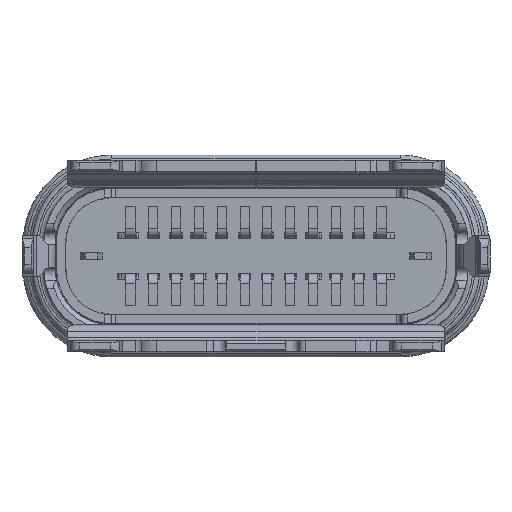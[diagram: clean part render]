
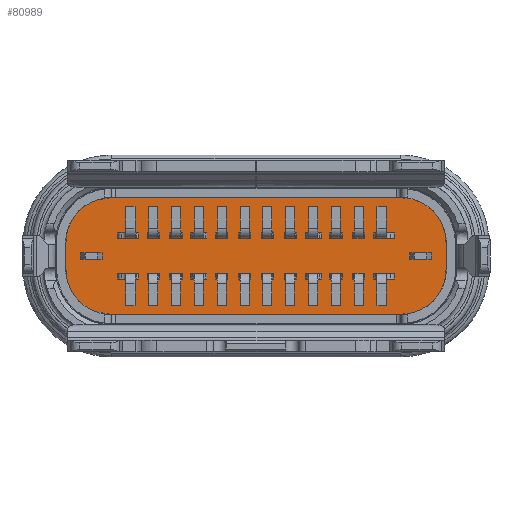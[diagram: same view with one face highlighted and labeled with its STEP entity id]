
A CAD part, left-side view. The second image highlights one B-rep face of the part: STEP entity #80989.
In plain terms, the highlighted free-form (B-spline) face has degree [1, 1] with [2, 2] control points.
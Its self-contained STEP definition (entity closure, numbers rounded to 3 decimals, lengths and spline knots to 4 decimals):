
#1302 = ORIENTED_EDGE ( 'NONE', *, *, #132856, .T. ) ;
#2977 = ORIENTED_EDGE ( 'NONE', *, *, #160617, .T. ) ;
#3748 = VERTEX_POINT ( 'NONE', #141327 ) ;
#5496 = CARTESIAN_POINT ( 'NONE',  ( 21.7417, 3.7678, -2.428 ) ) ;
#10269 = CARTESIAN_POINT ( 'NONE',  ( 21.7417, 3.7678, -4.032 ) ) ;
#14080 = CARTESIAN_POINT ( 'NONE',  ( 21.7417, 4.138, -4.4022 ) ) ;
#24004 = VERTEX_POINT ( 'NONE', #171855 ) ;
#25410 = EDGE_CURVE ( 'NONE', #32365, #162111, #28358, .T. ) ;
#27012 = VERTEX_POINT ( 'NONE', #147892 ) ;
#27454 = ORIENTED_EDGE ( 'NONE', *, *, #126167, .T. ) ;
#28358 = B_SPLINE_CURVE_WITH_KNOTS ( 'NONE', 3,
 ( #68723, #187028, #94904, #154053, #54220, #138548 ),
 .UNSPECIFIED., .F., .F.,
 ( 4, 2, 4 ),
 ( 0., 0.7854, 1.5708 ),
 .UNSPECIFIED. ) ;
#30628 = CARTESIAN_POINT ( 'NONE',  ( 21.7417, 12., -3.51 ) ) ;
#32030 = CARTESIAN_POINT ( 'NONE',  ( 21.7417, 11., -4.51 ) ) ;
#32365 = VERTEX_POINT ( 'NONE', #122808 ) ;
#32948 = CARTESIAN_POINT ( 'NONE',  ( 21.7417, 12., -2.95 ) ) ;
#33009 = EDGE_CURVE ( 'NONE', #186381, #27012, #81251, .T. ) ;
#34487 = CARTESIAN_POINT ( 'NONE',  ( 21.7417, 3.66, -3.51 ) ) ;
#43088 = CARTESIAN_POINT ( 'NONE',  ( 21.7417, 4.3982, -4.5102 ) ) ;
#44190 = CARTESIAN_POINT ( 'NONE',  ( 21.7417, 3.4932, -1.8988 ) ) ;
#51844 = B_SPLINE_CURVE_WITH_KNOTS ( 'NONE', 1,
 ( #83486, #159047 ),
 .UNSPECIFIED., .F., .F.,
 ( 2, 2 ),
 ( 0., 1. ),
 .UNSPECIFIED. ) ;
#54220 = CARTESIAN_POINT ( 'NONE',  ( 21.7417, 11.2619, -1.9498 ) ) ;
#55757 = CARTESIAN_POINT ( 'NONE',  ( 21.7417, 4.66, -4.51 ) ) ;
#57600 = CARTESIAN_POINT ( 'NONE',  ( 21.7417, 4.66, -1.95 ) ) ;
#58781 = FACE_OUTER_BOUND ( 'NONE', #144117, .T. ) ;
#68723 = CARTESIAN_POINT ( 'NONE',  ( 21.7417, 12., -2.95 ) ) ;
#71900 = ORIENTED_EDGE ( 'NONE', *, *, #144809, .T. ) ;
#72185 = CARTESIAN_POINT ( 'NONE',  ( 21.7417, 3.6598, -3.7718 ) ) ;
#72330 = CARTESIAN_POINT ( 'NONE',  ( 21.7417, 12., -4.0958 ) ) ;
#73650 =( BOUNDED_CURVE ( )  B_SPLINE_CURVE ( 3, ( #30628, #72330, #74268, #134318 ),
 .UNSPECIFIED., .F., .F. ) 
 B_SPLINE_CURVE_WITH_KNOTS ( ( 4, 4 ),
 ( 0., 1.5708 ),
 .UNSPECIFIED. ) 
 CURVE ( )  GEOMETRIC_REPRESENTATION_ITEM ( )  RATIONAL_B_SPLINE_CURVE ( ( 1., 0.805, 0.805, 1. ) ) 
 REPRESENTATION_ITEM ( '' )  );
#74268 = CARTESIAN_POINT ( 'NONE',  ( 21.7417, 11.5858, -4.51 ) ) ;
#75537 = ORIENTED_EDGE ( 'NONE', *, *, #79943, .F. ) ;
#78585 = ORIENTED_EDGE ( 'NONE', *, *, #25410, .T. ) ;
#79943 = EDGE_CURVE ( 'NONE', #3748, #27012, #73650, .T. ) ;
#80989 = ADVANCED_FACE ( 'NONE', ( #58781 ), #86155, .T. ) ;
#81251 = B_SPLINE_CURVE_WITH_KNOTS ( 'NONE', 1,
 ( #152162, #32030 ),
 .UNSPECIFIED., .F., .F.,
 ( 2, 2 ),
 ( 0., 1. ),
 .UNSPECIFIED. ) ;
#83486 = CARTESIAN_POINT ( 'NONE',  ( 21.7417, 3.66, -2.95 ) ) ;
#83820 = CARTESIAN_POINT ( 'NONE',  ( 21.7417, 11., -1.95 ) ) ;
#86155 = B_SPLINE_SURFACE_WITH_KNOTS ( 'NONE', 1, 1, ( 
 ( #116885, #44190 ),
 ( #103283, #177983 ) ),
 .UNSPECIFIED., .F., .F., .F.,
 ( 2, 2 ),
 ( 2, 2 ),
 ( 1.6632, 10.3368 ),
 ( -3.5962, -0.9338 ),
 .UNSPECIFIED. ) ;
#91100 = CARTESIAN_POINT ( 'NONE',  ( 21.7417, 12., -3.51 ) ) ;
#94054 = CARTESIAN_POINT ( 'NONE',  ( 21.7417, 4.66, -4.51 ) ) ;
#94904 = CARTESIAN_POINT ( 'NONE',  ( 21.7417, 11.8922, -2.428 ) ) ;
#95646 = EDGE_CURVE ( 'NONE', #162111, #158914, #190685, .T. ) ;
#101447 = VERTEX_POINT ( 'NONE', #34487 ) ;
#102134 = ORIENTED_EDGE ( 'NONE', *, *, #95646, .T. ) ;
#103283 = CARTESIAN_POINT ( 'NONE',  ( 21.7417, 12.1668, -4.5612 ) ) ;
#116885 = CARTESIAN_POINT ( 'NONE',  ( 21.7417, 3.4932, -4.5612 ) ) ;
#117687 = CARTESIAN_POINT ( 'NONE',  ( 21.7417, 3.66, -3.51 ) ) ;
#122808 = CARTESIAN_POINT ( 'NONE',  ( 21.7417, 12., -2.95 ) ) ;
#123637 = CARTESIAN_POINT ( 'NONE',  ( 21.7417, 3.66, -2.95 ) ) ;
#126167 = EDGE_CURVE ( 'NONE', #158914, #24004, #129349, .T. ) ;
#129349 = B_SPLINE_CURVE_WITH_KNOTS ( 'NONE', 3,
 ( #138208, #155616, #141027, #5496, #151767, #123637 ),
 .UNSPECIFIED., .F., .F.,
 ( 4, 2, 4 ),
 ( 0., 0.7854, 1.5708 ),
 .UNSPECIFIED. ) ;
#132856 = EDGE_CURVE ( 'NONE', #24004, #101447, #51844, .T. ) ;
#134318 = CARTESIAN_POINT ( 'NONE',  ( 21.7417, 11., -4.51 ) ) ;
#138208 = CARTESIAN_POINT ( 'NONE',  ( 21.7417, 4.66, -1.95 ) ) ;
#138548 = CARTESIAN_POINT ( 'NONE',  ( 21.7417, 11., -1.95 ) ) ;
#141027 = CARTESIAN_POINT ( 'NONE',  ( 21.7417, 4.138, -2.0578 ) ) ;
#141327 = CARTESIAN_POINT ( 'NONE',  ( 21.7417, 12., -3.51 ) ) ;
#144117 = EDGE_LOOP ( 'NONE', ( #71900, #161960, #75537, #2977, #78585, #102134, #27454, #1302 ) ) ;
#144809 = EDGE_CURVE ( 'NONE', #101447, #186381, #177766, .T. ) ;
#147892 = CARTESIAN_POINT ( 'NONE',  ( 21.7417, 11., -4.51 ) ) ;
#151767 = CARTESIAN_POINT ( 'NONE',  ( 21.7417, 3.6598, -2.6882 ) ) ;
#152162 = CARTESIAN_POINT ( 'NONE',  ( 21.7417, 4.66, -4.51 ) ) ;
#154053 = CARTESIAN_POINT ( 'NONE',  ( 21.7417, 11.522, -2.0578 ) ) ;
#155616 = CARTESIAN_POINT ( 'NONE',  ( 21.7417, 4.3982, -1.9498 ) ) ;
#158914 = VERTEX_POINT ( 'NONE', #191016 ) ;
#159047 = CARTESIAN_POINT ( 'NONE',  ( 21.7417, 3.66, -3.51 ) ) ;
#160617 = EDGE_CURVE ( 'NONE', #3748, #32365, #185488, .T. ) ;
#161960 = ORIENTED_EDGE ( 'NONE', *, *, #33009, .T. ) ;
#162111 = VERTEX_POINT ( 'NONE', #179142 ) ;
#171855 = CARTESIAN_POINT ( 'NONE',  ( 21.7417, 3.66, -2.95 ) ) ;
#177766 = B_SPLINE_CURVE_WITH_KNOTS ( 'NONE', 3,
 ( #117687, #72185, #10269, #14080, #43088, #55757 ),
 .UNSPECIFIED., .F., .F.,
 ( 4, 2, 4 ),
 ( 0., 0.7854, 1.5708 ),
 .UNSPECIFIED. ) ;
#177983 = CARTESIAN_POINT ( 'NONE',  ( 21.7417, 12.1668, -1.8988 ) ) ;
#179142 = CARTESIAN_POINT ( 'NONE',  ( 21.7417, 11., -1.95 ) ) ;
#185488 = B_SPLINE_CURVE_WITH_KNOTS ( 'NONE', 1,
 ( #91100, #32948 ),
 .UNSPECIFIED., .F., .F.,
 ( 2, 2 ),
 ( 0., 1. ),
 .UNSPECIFIED. ) ;
#186381 = VERTEX_POINT ( 'NONE', #94054 ) ;
#187028 = CARTESIAN_POINT ( 'NONE',  ( 21.7417, 12.0003, -2.6882 ) ) ;
#190685 = B_SPLINE_CURVE_WITH_KNOTS ( 'NONE', 1,
 ( #83820, #57600 ),
 .UNSPECIFIED., .F., .F.,
 ( 2, 2 ),
 ( 0., 1. ),
 .UNSPECIFIED. ) ;
#191016 = CARTESIAN_POINT ( 'NONE',  ( 21.7417, 4.66, -1.95 ) ) ;
